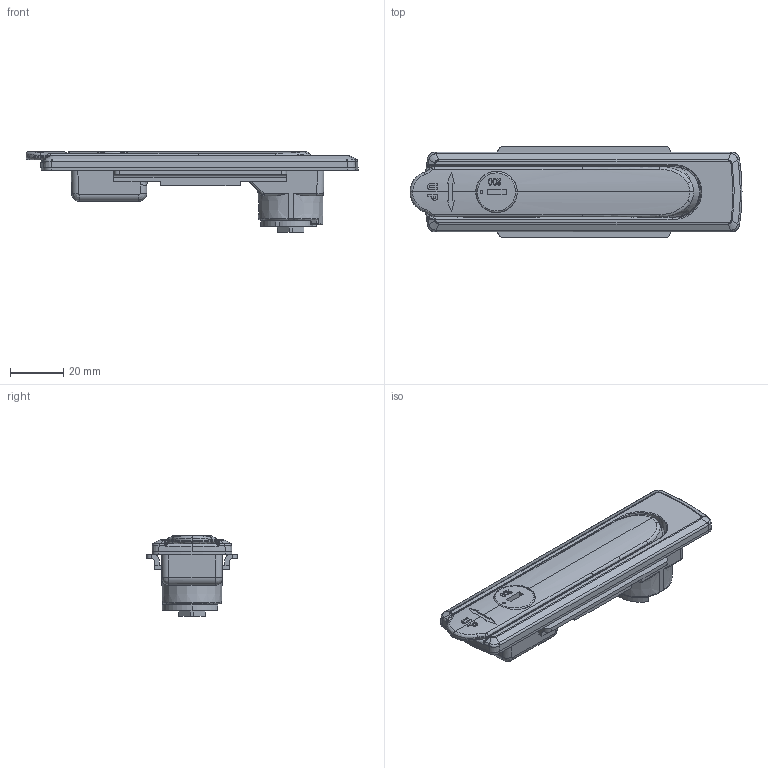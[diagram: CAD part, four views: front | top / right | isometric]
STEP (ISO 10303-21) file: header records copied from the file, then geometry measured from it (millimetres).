
FILE_DESCRIPTION (( 'STEP AP214' ), '1' );
FILE_NAME ('A90 KA-618-2K.STEP', '2016-11-24T07:49:32', ( '' ), ( '' ), 'SwSTEP 2.0', 'SolidWorks 2011', '' );
FILE_SCHEMA (( 'AUTOMOTIVE_DESIGN' ));
Length unit declared in the file: millimetre
Products named in the file (1): A90 KA-618-2K
Bounding box: 124.8 x 34.2 x 30.2 mm (x, y, z)
Volume: 34827.5 mm3; surface area: 31916 mm2
Topology: 4 solids, 4 shells, 666 faces, 1681 edges, 1022 vertices
Faces by surface type: plane 223, bspline 218, cylinder 204, cone 21
Entity records: 40516 total; most frequent: CARTESIAN_POINT 18959, ORIENTED_EDGE 3320, DIRECTION 2502, EDGE_CURVE 1660, VERTEX_POINT 1022, AXIS2_PLACEMENT_3D 892, VECTOR 718, LINE 718
